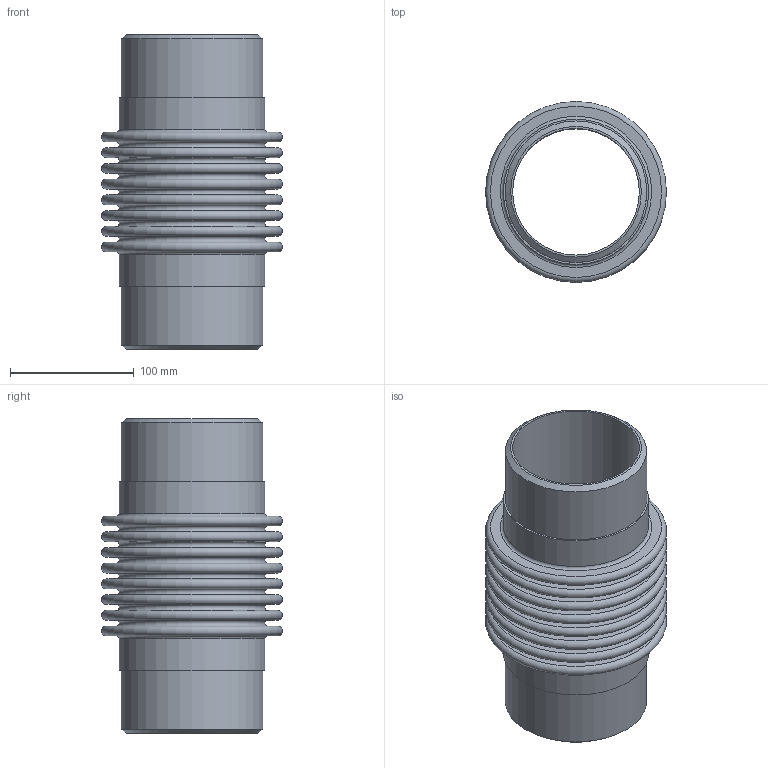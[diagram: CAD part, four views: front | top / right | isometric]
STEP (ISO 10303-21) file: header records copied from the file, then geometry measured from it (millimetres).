
FILE_DESCRIPTION(/* description */ ('EXPANSION JOINT,SINGLE, WELD ENDS,4 INCH NOMINAL'),/* implementation_level */ '2;1');
FILE_NAME(/* name */ 'US-4-300S- WELD-ENDS.stp',/* time_stamp */ '2026-07-28T10:29:40-05:00',/* author */ ('jorgef'),/* organization */ (''),/* preprocessor_version */ 'ST-DEVELOPER v20.1',/* originating_system */ 'Autodesk Inventor 2026',/* authorisation */ '');
FILE_SCHEMA (('AUTOMOTIVE_DESIGN { 1 0 10303 214 3 1 1 }'));
Length unit declared in the file: inch
Products named in the file (3): SINGLE STOCK  BELLOW WELDED ENDS  4- 300 PSIG; STOCK BELLOW - US-4-8- 300S; PIPE- 4 - 300 PSIG
Assembly tree (3 placements, depth 2):
  SINGLE STOCK  BELLOW WELDED ENDS  4- 300 PSIG
    STOCK BELLOW - US-4-8- 300S
    PIPE- 4 - 300 PSIG  x2
Bounding box: 146.05 x 146.05 x 254 mm (x, y, z)
Volume: 514230 mm3; surface area: 385765.9 mm2
Topology: 5 solids, 5 shells, 86 faces, 132 edges, 89 vertices
Faces by surface type: plane 42, torus 34, cylinder 8, cone 2
Full cylindrical faces by diameter (mm): 102.26 x2, 114.3 x4, 117.348 x2
Entity records: 2033 total; most frequent: DIRECTION 413, CARTESIAN_POINT 293, ORIENTED_EDGE 246, AXIS2_PLACEMENT_3D 203, EDGE_CURVE 123, EDGE_LOOP 121, CIRCLE 116, VERTEX_POINT 82
